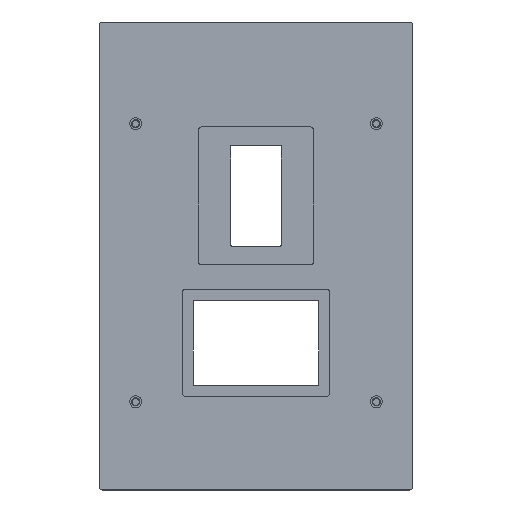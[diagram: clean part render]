
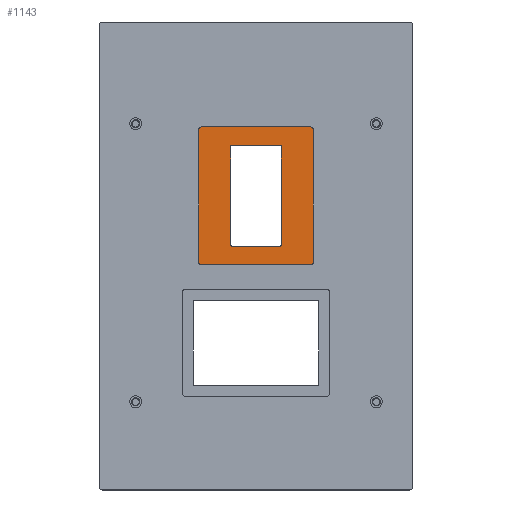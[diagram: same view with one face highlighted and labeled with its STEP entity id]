
A CAD part, top view. The second image highlights one B-rep face of the part: STEP entity #1143.
In plain terms, the highlighted planar face has unit normal (0, 0, 1).
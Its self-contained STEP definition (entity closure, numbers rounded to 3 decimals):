
#69=LINE('',#1748,#161);
#73=LINE('',#1760,#165);
#77=LINE('',#1772,#169);
#82=LINE('',#1784,#174);
#105=LINE('',#1860,#197);
#108=LINE('',#1871,#200);
#112=LINE('',#1883,#204);
#115=LINE('',#1892,#207);
#161=VECTOR('',#1418,10.);
#165=VECTOR('',#1430,10.);
#169=VECTOR('',#1442,10.);
#174=VECTOR('',#1455,10.);
#197=VECTOR('',#1524,10.);
#200=VECTOR('',#1535,10.);
#204=VECTOR('',#1547,10.);
#207=VECTOR('',#1558,10.);
#274=FACE_BOUND('',#405,.T.);
#333=FACE_OUTER_BOUND('',#404,.T.);
#404=EDGE_LOOP('',(#975,#976,#977,#978,#979,#980,#981,#982));
#405=EDGE_LOOP('',(#983,#984,#985,#986,#987,#988,#989,#990));
#447=CIRCLE('',#1223,0.7);
#449=CIRCLE('',#1227,0.7);
#451=CIRCLE('',#1231,0.7);
#453=CIRCLE('',#1235,0.7);
#467=CIRCLE('',#1258,1.);
#469=CIRCLE('',#1262,1.);
#471=CIRCLE('',#1266,1.);
#473=CIRCLE('',#1270,1.);
#511=VERTEX_POINT('',#1738);
#512=VERTEX_POINT('',#1739);
#515=VERTEX_POINT('',#1747);
#517=VERTEX_POINT('',#1753);
#519=VERTEX_POINT('',#1759);
#521=VERTEX_POINT('',#1765);
#523=VERTEX_POINT('',#1771);
#525=VERTEX_POINT('',#1777);
#551=VERTEX_POINT('',#1847);
#552=VERTEX_POINT('',#1848);
#556=VERTEX_POINT('',#1858);
#557=VERTEX_POINT('',#1862);
#558=VERTEX_POINT('',#1863);
#561=VERTEX_POINT('',#1874);
#562=VERTEX_POINT('',#1875);
#565=VERTEX_POINT('',#1886);
#627=EDGE_CURVE('',#511,#512,#447,.T.);
#631=EDGE_CURVE('',#515,#512,#69,.T.);
#634=EDGE_CURVE('',#515,#517,#449,.T.);
#637=EDGE_CURVE('',#519,#517,#73,.T.);
#640=EDGE_CURVE('',#519,#521,#451,.T.);
#643=EDGE_CURVE('',#523,#521,#77,.T.);
#646=EDGE_CURVE('',#523,#525,#453,.T.);
#650=EDGE_CURVE('',#511,#525,#82,.T.);
#681=EDGE_CURVE('',#551,#552,#467,.T.);
#687=EDGE_CURVE('',#556,#552,#105,.T.);
#688=EDGE_CURVE('',#557,#558,#469,.T.);
#692=EDGE_CURVE('',#551,#558,#108,.T.);
#694=EDGE_CURVE('',#561,#562,#471,.T.);
#698=EDGE_CURVE('',#557,#562,#112,.T.);
#700=EDGE_CURVE('',#556,#565,#473,.T.);
#703=EDGE_CURVE('',#561,#565,#115,.T.);
#975=ORIENTED_EDGE('',*,*,#681,.T.);
#976=ORIENTED_EDGE('',*,*,#687,.F.);
#977=ORIENTED_EDGE('',*,*,#700,.T.);
#978=ORIENTED_EDGE('',*,*,#703,.F.);
#979=ORIENTED_EDGE('',*,*,#694,.T.);
#980=ORIENTED_EDGE('',*,*,#698,.F.);
#981=ORIENTED_EDGE('',*,*,#688,.T.);
#982=ORIENTED_EDGE('',*,*,#692,.F.);
#983=ORIENTED_EDGE('',*,*,#650,.T.);
#984=ORIENTED_EDGE('',*,*,#646,.F.);
#985=ORIENTED_EDGE('',*,*,#643,.T.);
#986=ORIENTED_EDGE('',*,*,#640,.F.);
#987=ORIENTED_EDGE('',*,*,#637,.T.);
#988=ORIENTED_EDGE('',*,*,#634,.F.);
#989=ORIENTED_EDGE('',*,*,#631,.T.);
#990=ORIENTED_EDGE('',*,*,#627,.F.);
#1083=PLANE('',#1294);
#1143=ADVANCED_FACE('',(#333,#274),#1083,.F.);
#1223=AXIS2_PLACEMENT_3D('',#1740,#1410,#1411);
#1227=AXIS2_PLACEMENT_3D('',#1754,#1423,#1424);
#1231=AXIS2_PLACEMENT_3D('',#1766,#1435,#1436);
#1235=AXIS2_PLACEMENT_3D('',#1778,#1447,#1448);
#1258=AXIS2_PLACEMENT_3D('',#1849,#1514,#1515);
#1262=AXIS2_PLACEMENT_3D('',#1864,#1527,#1528);
#1266=AXIS2_PLACEMENT_3D('',#1876,#1539,#1540);
#1270=AXIS2_PLACEMENT_3D('',#1887,#1551,#1552);
#1294=AXIS2_PLACEMENT_3D('',#1959,#1622,#1623);
#1410=DIRECTION('center_axis',(0.,0.,1.));
#1411=DIRECTION('ref_axis',(-0.707,-0.707,0.));
#1418=DIRECTION('',(-1.,0.,0.));
#1423=DIRECTION('center_axis',(0.,0.,1.));
#1424=DIRECTION('ref_axis',(0.707,-0.707,0.));
#1430=DIRECTION('',(0.,-1.,0.));
#1435=DIRECTION('center_axis',(0.,0.,1.));
#1436=DIRECTION('ref_axis',(0.707,0.707,0.));
#1442=DIRECTION('',(1.,0.,0.));
#1447=DIRECTION('center_axis',(0.,0.,1.));
#1448=DIRECTION('ref_axis',(-0.707,0.707,0.));
#1455=DIRECTION('',(0.,1.,0.));
#1514=DIRECTION('center_axis',(0.,0.,1.));
#1515=DIRECTION('ref_axis',(-0.707,-0.707,0.));
#1524=DIRECTION('',(-1.,0.,0.));
#1527=DIRECTION('center_axis',(0.,0.,1.));
#1528=DIRECTION('ref_axis',(-0.707,0.707,0.));
#1535=DIRECTION('',(0.,1.,0.));
#1539=DIRECTION('center_axis',(0.,0.,1.));
#1540=DIRECTION('ref_axis',(0.707,0.707,0.));
#1547=DIRECTION('',(1.,0.,0.));
#1551=DIRECTION('center_axis',(0.,0.,1.));
#1552=DIRECTION('ref_axis',(0.707,-0.707,0.));
#1558=DIRECTION('',(0.,-1.,0.));
#1622=DIRECTION('center_axis',(0.,0.,-1.));
#1623=DIRECTION('ref_axis',(-1.,0.,0.));
#1738=CARTESIAN_POINT('',(-9.5,2.2,-2.));
#1739=CARTESIAN_POINT('',(-8.8,1.5,-2.));
#1740=CARTESIAN_POINT('Origin',(-8.8,2.2,-2.));
#1747=CARTESIAN_POINT('',(8.8,1.5,-2.));
#1748=CARTESIAN_POINT('',(4.75,1.5,-2.));
#1753=CARTESIAN_POINT('',(9.5,2.2,-2.));
#1754=CARTESIAN_POINT('Origin',(8.8,2.2,-2.));
#1759=CARTESIAN_POINT('',(9.5,38.8,-2.));
#1760=CARTESIAN_POINT('',(9.5,29.975,-2.));
#1765=CARTESIAN_POINT('',(8.8,39.5,-2.));
#1766=CARTESIAN_POINT('Origin',(8.8,38.8,-2.));
#1771=CARTESIAN_POINT('',(-8.8,39.5,-2.));
#1772=CARTESIAN_POINT('',(-4.75,39.5,-2.));
#1777=CARTESIAN_POINT('',(-9.5,38.8,-2.));
#1778=CARTESIAN_POINT('Origin',(-8.8,38.8,-2.));
#1784=CARTESIAN_POINT('',(-9.5,10.975,-2.));
#1847=CARTESIAN_POINT('',(-21.4,-4.35,-2.));
#1848=CARTESIAN_POINT('',(-20.4,-5.35,-2.));
#1849=CARTESIAN_POINT('Origin',(-20.4,-4.35,-2.));
#1858=CARTESIAN_POINT('',(20.4,-5.35,-2.));
#1860=CARTESIAN_POINT('',(21.4,-5.35,-2.));
#1862=CARTESIAN_POINT('',(-20.4,46.25,-2.));
#1863=CARTESIAN_POINT('',(-21.4,45.25,-2.));
#1864=CARTESIAN_POINT('Origin',(-20.4,45.25,-2.));
#1871=CARTESIAN_POINT('',(-21.4,-5.35,-2.));
#1874=CARTESIAN_POINT('',(21.4,45.25,-2.));
#1875=CARTESIAN_POINT('',(20.4,46.25,-2.));
#1876=CARTESIAN_POINT('Origin',(20.4,45.25,-2.));
#1883=CARTESIAN_POINT('',(-21.4,46.25,-2.));
#1886=CARTESIAN_POINT('',(21.4,-4.35,-2.));
#1887=CARTESIAN_POINT('Origin',(20.4,-4.35,-2.));
#1892=CARTESIAN_POINT('',(21.4,46.25,-2.));
#1959=CARTESIAN_POINT('Origin',(0.,20.45,-2.));
